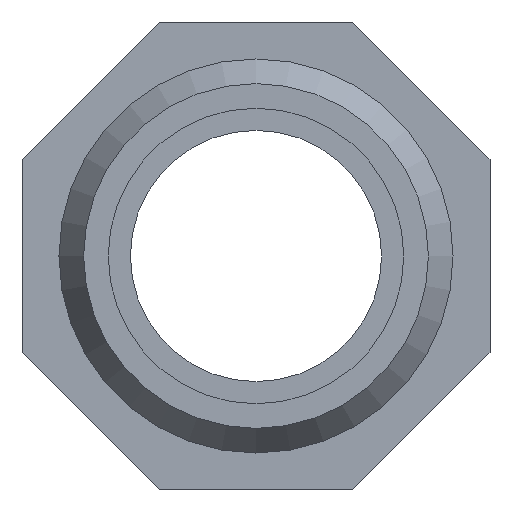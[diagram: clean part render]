
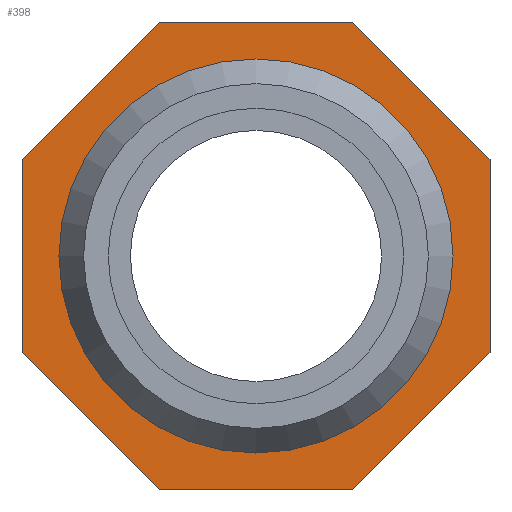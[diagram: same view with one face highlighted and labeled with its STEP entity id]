
A CAD part, front view. The second image highlights one B-rep face of the part: STEP entity #398.
In plain terms, the highlighted planar face has unit normal (0, -1, 0).
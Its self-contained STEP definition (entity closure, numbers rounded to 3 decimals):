
#18=LINE('',#3762,#45);
#19=LINE('',#3764,#46);
#20=LINE('',#3766,#47);
#21=LINE('',#3768,#48);
#22=LINE('',#3770,#49);
#23=LINE('',#3772,#50);
#24=LINE('',#3774,#51);
#25=LINE('',#3775,#52);
#45=VECTOR('',#499,7.87);
#46=VECTOR('',#500,7.87);
#47=VECTOR('',#501,7.87);
#48=VECTOR('',#502,7.87);
#49=VECTOR('',#503,7.87);
#50=VECTOR('',#504,7.87);
#51=VECTOR('',#505,7.87);
#52=VECTOR('',#506,7.87);
#90=PLANE('',#434);
#114=FACE_BOUND('',#168,.T.);
#132=FACE_OUTER_BOUND('',#167,.T.);
#167=EDGE_LOOP('',(#327,#328,#329,#330,#331,#332,#333,#334));
#168=EDGE_LOOP('',(#335));
#181=CIRCLE('',#414,8.);
#194=VERTEX_POINT('',#548);
#212=VERTEX_POINT('',#3760);
#213=VERTEX_POINT('',#3761);
#214=VERTEX_POINT('',#3763);
#215=VERTEX_POINT('',#3765);
#216=VERTEX_POINT('',#3767);
#217=VERTEX_POINT('',#3769);
#218=VERTEX_POINT('',#3771);
#219=VERTEX_POINT('',#3773);
#230=EDGE_CURVE('',#194,#194,#181,.T.);
#255=EDGE_CURVE('',#212,#213,#18,.T.);
#256=EDGE_CURVE('',#213,#214,#19,.T.);
#257=EDGE_CURVE('',#214,#215,#20,.T.);
#258=EDGE_CURVE('',#215,#216,#21,.T.);
#259=EDGE_CURVE('',#216,#217,#22,.T.);
#260=EDGE_CURVE('',#217,#218,#23,.T.);
#261=EDGE_CURVE('',#218,#219,#24,.T.);
#262=EDGE_CURVE('',#219,#212,#25,.T.);
#327=ORIENTED_EDGE('',*,*,#255,.T.);
#328=ORIENTED_EDGE('',*,*,#256,.T.);
#329=ORIENTED_EDGE('',*,*,#257,.T.);
#330=ORIENTED_EDGE('',*,*,#258,.T.);
#331=ORIENTED_EDGE('',*,*,#259,.T.);
#332=ORIENTED_EDGE('',*,*,#260,.T.);
#333=ORIENTED_EDGE('',*,*,#261,.T.);
#334=ORIENTED_EDGE('',*,*,#262,.T.);
#335=ORIENTED_EDGE('',*,*,#230,.T.);
#398=ADVANCED_FACE('',(#132,#114),#90,.T.);
#414=AXIS2_PLACEMENT_3D('',#549,#454,#455);
#434=AXIS2_PLACEMENT_3D('',#3759,#497,#498);
#454=DIRECTION('center_axis',(0.,1.,0.));
#455=DIRECTION('ref_axis',(-1.,0.,0.));
#497=DIRECTION('center_axis',(0.,-1.,0.));
#498=DIRECTION('ref_axis',(0.,0.,-1.));
#499=DIRECTION('',(-1.,0.,0.));
#500=DIRECTION('',(-0.707,0.,-0.707));
#501=DIRECTION('',(0.,0.,-1.));
#502=DIRECTION('',(0.707,0.,-0.707));
#503=DIRECTION('',(1.,0.,0.));
#504=DIRECTION('',(0.707,0.,0.707));
#505=DIRECTION('',(0.,0.,1.));
#506=DIRECTION('',(-0.707,0.,0.707));
#548=CARTESIAN_POINT('',(8.,-4.5,0.));
#549=CARTESIAN_POINT('Origin',(0.,-4.5,0.));
#3759=CARTESIAN_POINT('Origin',(0.,-4.5,0.));
#3760=CARTESIAN_POINT('',(3.935,-4.5,9.5));
#3761=CARTESIAN_POINT('',(-3.935,-4.5,9.5));
#3762=CARTESIAN_POINT('',(3.935,-4.5,9.5));
#3763=CARTESIAN_POINT('',(-9.5,-4.5,3.935));
#3764=CARTESIAN_POINT('',(-3.935,-4.5,9.5));
#3765=CARTESIAN_POINT('',(-9.5,-4.5,-3.935));
#3766=CARTESIAN_POINT('',(-9.5,-4.5,3.935));
#3767=CARTESIAN_POINT('',(-3.935,-4.5,-9.5));
#3768=CARTESIAN_POINT('',(-9.5,-4.5,-3.935));
#3769=CARTESIAN_POINT('',(3.935,-4.5,-9.5));
#3770=CARTESIAN_POINT('',(-3.935,-4.5,-9.5));
#3771=CARTESIAN_POINT('',(9.5,-4.5,-3.935));
#3772=CARTESIAN_POINT('',(3.935,-4.5,-9.5));
#3773=CARTESIAN_POINT('',(9.5,-4.5,3.935));
#3774=CARTESIAN_POINT('',(9.5,-4.5,-3.935));
#3775=CARTESIAN_POINT('',(9.5,-4.5,3.935));
